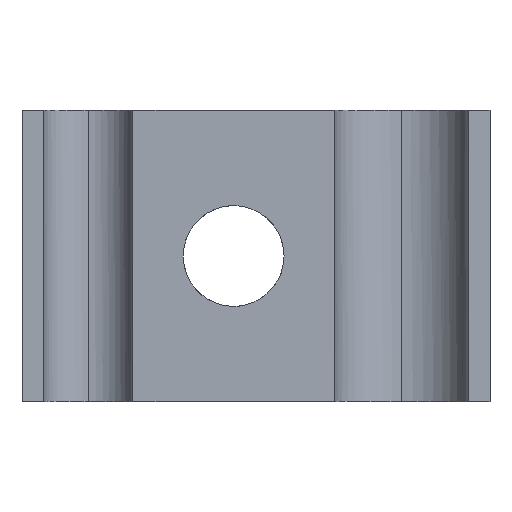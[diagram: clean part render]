
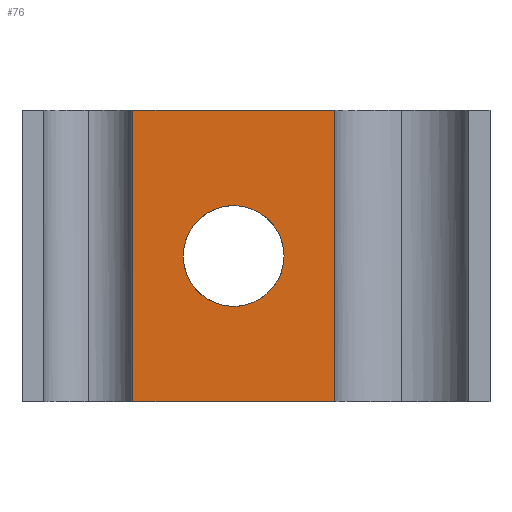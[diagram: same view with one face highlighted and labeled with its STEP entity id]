
A CAD part, front view. The second image highlights one B-rep face of the part: STEP entity #76.
In plain terms, the highlighted planar face has unit normal (0, -1, 0).
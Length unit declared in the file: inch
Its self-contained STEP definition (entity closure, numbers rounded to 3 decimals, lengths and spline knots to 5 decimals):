
#76=ADVANCED_FACE('',(#161,#162),#163,.T.);
#161=FACE_BOUND('',#290,.T.);
#162=FACE_OUTER_BOUND('',#291,.T.);
#163=PLANE('',#292);
#290=EDGE_LOOP('',(#488,#489,#490,#491));
#291=EDGE_LOOP('',(#492,#493,#494,#495));
#292=AXIS2_PLACEMENT_3D('',#496,#497,#498);
#488=ORIENTED_EDGE('',*,*,#611,.T.);
#489=ORIENTED_EDGE('',*,*,#620,.T.);
#490=ORIENTED_EDGE('',*,*,#621,.T.);
#491=ORIENTED_EDGE('',*,*,#606,.T.);
#492=ORIENTED_EDGE('',*,*,#622,.T.);
#493=ORIENTED_EDGE('',*,*,#623,.F.);
#494=ORIENTED_EDGE('',*,*,#624,.T.);
#495=ORIENTED_EDGE('',*,*,#625,.T.);
#496=CARTESIAN_POINT('',(0.59068,0.0,0.0));
#497=DIRECTION('',(0.0,-1.0,0.0));
#498=DIRECTION('',(1.0,0.0,0.0));
#606=EDGE_CURVE('',#673,#674,#675,.T.);
#611=EDGE_CURVE('',#674,#682,#683,.T.);
#620=EDGE_CURVE('',#682,#697,#698,.T.);
#621=EDGE_CURVE('',#697,#673,#699,.T.);
#622=EDGE_CURVE('',#700,#701,#702,.T.);
#623=EDGE_CURVE('',#703,#701,#704,.T.);
#624=EDGE_CURVE('',#703,#705,#706,.T.);
#625=EDGE_CURVE('',#705,#700,#707,.T.);
#673=VERTEX_POINT('',#772);
#674=VERTEX_POINT('',#773);
#675=B_SPLINE_CURVE_WITH_KNOTS('',3,(#774,#775,#776,#777),.UNSPECIFIED.,.F.,.F.,(4,4),(0.0,1.0),.UNSPECIFIED.);
#682=VERTEX_POINT('',#789);
#683=B_SPLINE_CURVE_WITH_KNOTS('',3,(#790,#791,#792,#793),.UNSPECIFIED.,.F.,.F.,(4,4),(0.0,1.0),.UNSPECIFIED.);
#697=VERTEX_POINT('',#815);
#698=B_SPLINE_CURVE_WITH_KNOTS('',3,(#816,#817,#818,#819),.UNSPECIFIED.,.F.,.F.,(4,4),(0.0,1.0),.UNSPECIFIED.);
#699=B_SPLINE_CURVE_WITH_KNOTS('',3,(#820,#821,#822,#823),.UNSPECIFIED.,.F.,.F.,(4,4),(0.0,1.0),.UNSPECIFIED.);
#700=VERTEX_POINT('',#824);
#701=VERTEX_POINT('',#825);
#702=LINE('',#826,#827);
#703=VERTEX_POINT('',#828);
#704=LINE('',#829,#830);
#705=VERTEX_POINT('',#831);
#706=LINE('',#832,#833);
#707=LINE('',#834,#835);
#772=CARTESIAN_POINT('',(0.59068,0.0,0.2656));
#773=CARTESIAN_POINT('',(0.45003,0.0,0.40626));
#774=CARTESIAN_POINT('',(0.59068,0.,0.2656));
#775=CARTESIAN_POINT('',(0.513,0.,0.2656));
#776=CARTESIAN_POINT('',(0.45003,0.,0.32857));
#777=CARTESIAN_POINT('',(0.45003,0.,0.40626));
#789=CARTESIAN_POINT('',(0.59068,0.0,0.54691));
#790=CARTESIAN_POINT('',(0.45003,0.,0.40626));
#791=CARTESIAN_POINT('',(0.45003,0.,0.48392));
#792=CARTESIAN_POINT('',(0.513,0.,0.54691));
#793=CARTESIAN_POINT('',(0.59068,0.,0.54691));
#815=CARTESIAN_POINT('',(0.73133,0.0,0.40626));
#816=CARTESIAN_POINT('',(0.59068,0.,0.54691));
#817=CARTESIAN_POINT('',(0.66837,0.,0.54691));
#818=CARTESIAN_POINT('',(0.73133,0.,0.48392));
#819=CARTESIAN_POINT('',(0.73133,0.,0.40626));
#820=CARTESIAN_POINT('',(0.73133,0.,0.40626));
#821=CARTESIAN_POINT('',(0.73133,0.,0.32857));
#822=CARTESIAN_POINT('',(0.66837,0.,0.2656));
#823=CARTESIAN_POINT('',(0.59068,0.,0.2656));
#824=CARTESIAN_POINT('',(0.87165,0.0,0.8125));
#825=CARTESIAN_POINT('',(0.30971,0.0,0.8125));
#826=CARTESIAN_POINT('',(0.30971,0.0,0.8125));
#827=VECTOR('',#973,1.0);
#828=CARTESIAN_POINT('',(0.30971,0.0,0.0));
#829=CARTESIAN_POINT('',(0.30971,0.0,0.0));
#830=VECTOR('',#974,1.0);
#831=CARTESIAN_POINT('',(0.87165,0.0,0.0));
#832=CARTESIAN_POINT('',(0.30971,0.0,0.0));
#833=VECTOR('',#975,1.0);
#834=CARTESIAN_POINT('',(0.87165,0.0,0.0));
#835=VECTOR('',#976,1.0);
#973=DIRECTION('',(-1.0,-0.0,-0.0));
#974=DIRECTION('',(0.0,0.0,1.0));
#975=DIRECTION('',(1.0,0.0,0.0));
#976=DIRECTION('',(0.0,0.0,1.0));
